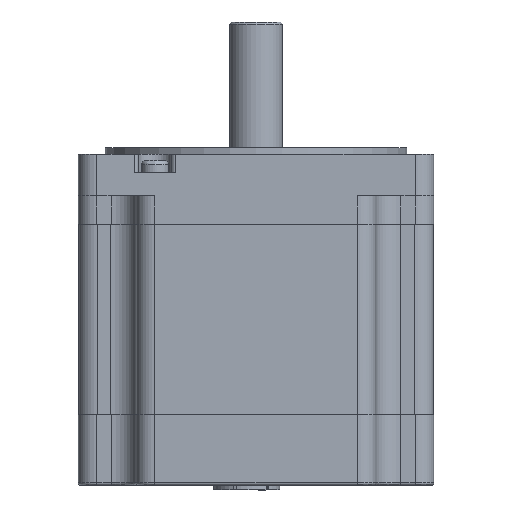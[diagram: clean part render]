
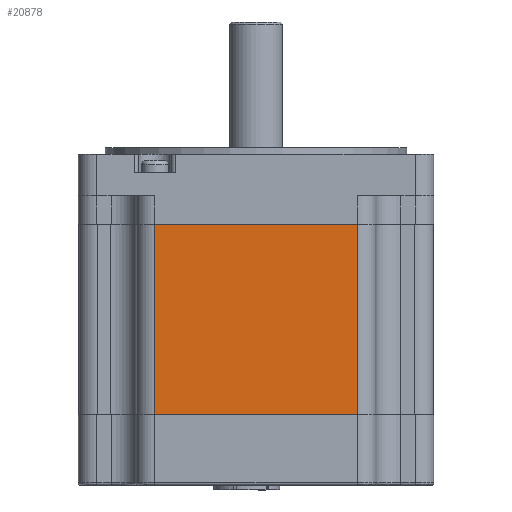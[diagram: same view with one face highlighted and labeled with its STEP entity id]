
A CAD part, front view. The second image highlights one B-rep face of the part: STEP entity #20878.
In plain terms, the highlighted planar face has unit normal (0, -1, 0).
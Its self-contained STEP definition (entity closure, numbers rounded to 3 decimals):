
#3 = DIRECTION ( 'NONE',  ( 0., 0., 1. ) ) ;
#1033 = CARTESIAN_POINT ( 'NONE',  ( -28.95, -42.85, -53. ) ) ;
#1704 = EDGE_CURVE ( 'NONE', #24032, #10466, #11333, .T. ) ;
#1752 = EDGE_CURVE ( 'NONE', #22839, #24032, #6195, .T. ) ;
#2070 = ORIENTED_EDGE ( 'NONE', *, *, #1752, .F. ) ;
#2208 = LINE ( 'NONE', #26131, #13169 ) ;
#4205 = CARTESIAN_POINT ( 'NONE',  ( -24.45, -42.85, -7. ) ) ;
#4280 = LINE ( 'NONE', #22189, #15164 ) ;
#4880 = ORIENTED_EDGE ( 'NONE', *, *, #1704, .F. ) ;
#5518 = VECTOR ( 'NONE', #10521, 1000. ) ;
#6195 = LINE ( 'NONE', #8409, #21551 ) ;
#6642 = DIRECTION ( 'NONE',  ( 0., 0., -1. ) ) ;
#6704 = CARTESIAN_POINT ( 'NONE',  ( 24.452, -42.85, -53. ) ) ;
#8409 = CARTESIAN_POINT ( 'NONE',  ( 24.452, -42.85, -53. ) ) ;
#9842 = DIRECTION ( 'NONE',  ( 0., 0., 1. ) ) ;
#10466 = VERTEX_POINT ( 'NONE', #18731 ) ;
#10521 = DIRECTION ( 'NONE',  ( -1., 0., 0. ) ) ;
#11333 = LINE ( 'NONE', #12550, #5518 ) ;
#12302 = AXIS2_PLACEMENT_3D ( 'NONE', #1033, #22917, #9842 ) ;
#12550 = CARTESIAN_POINT ( 'NONE',  ( 35., -42.85, -53. ) ) ;
#13169 = VECTOR ( 'NONE', #3, 1000. ) ;
#13807 = EDGE_CURVE ( 'NONE', #10466, #19017, #2208, .T. ) ;
#14291 = EDGE_CURVE ( 'NONE', #19017, #22839, #4280, .T. ) ;
#15164 = VECTOR ( 'NONE', #26328, 1000. ) ;
#16951 = CARTESIAN_POINT ( 'NONE',  ( 24.452, -42.85, -7. ) ) ;
#18731 = CARTESIAN_POINT ( 'NONE',  ( -24.45, -42.85, -53. ) ) ;
#19017 = VERTEX_POINT ( 'NONE', #4205 ) ;
#19623 = EDGE_LOOP ( 'NONE', ( #2070, #20762, #22160, #4880 ) ) ;
#20697 = PLANE ( 'NONE',  #12302 ) ;
#20762 = ORIENTED_EDGE ( 'NONE', *, *, #14291, .F. ) ;
#20878 = ADVANCED_FACE ( 'NONE', ( #27308 ), #20697, .F. ) ;
#21551 = VECTOR ( 'NONE', #6642, 1000. ) ;
#22160 = ORIENTED_EDGE ( 'NONE', *, *, #13807, .F. ) ;
#22189 = CARTESIAN_POINT ( 'NONE',  ( -28.95, -42.85, -7. ) ) ;
#22839 = VERTEX_POINT ( 'NONE', #16951 ) ;
#22917 = DIRECTION ( 'NONE',  ( 0., 1., 0. ) ) ;
#24032 = VERTEX_POINT ( 'NONE', #6704 ) ;
#26131 = CARTESIAN_POINT ( 'NONE',  ( -24.45, -42.85, -53. ) ) ;
#26328 = DIRECTION ( 'NONE',  ( 1., 0., 0. ) ) ;
#27308 = FACE_OUTER_BOUND ( 'NONE', #19623, .T. ) ;
